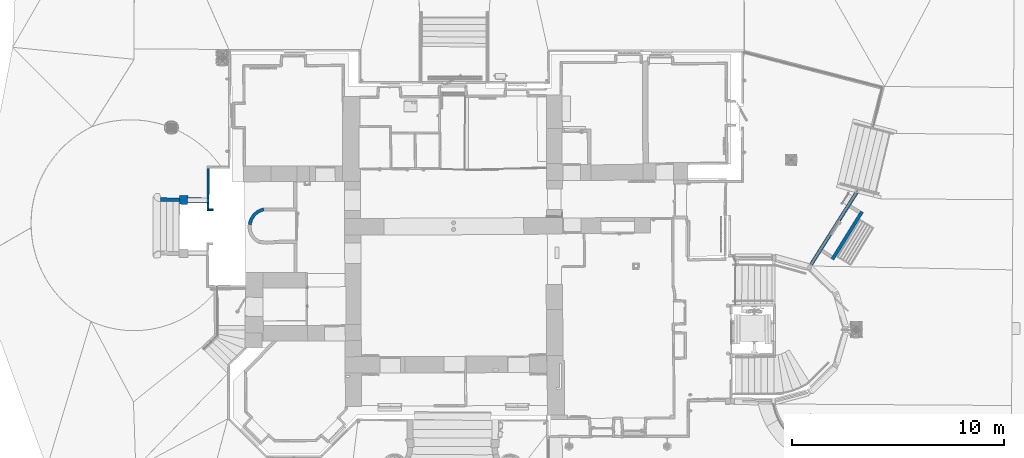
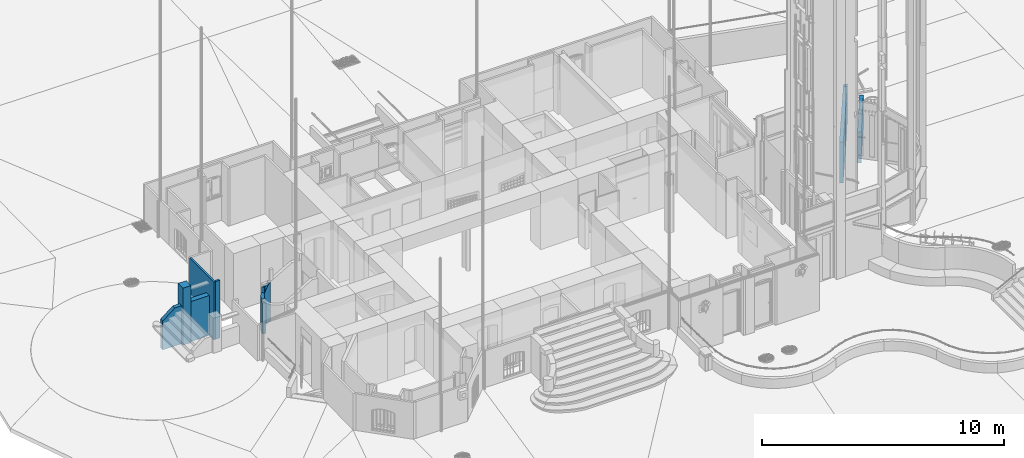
# One storey, part 23 of 133: 8 walls, 1 opening.
"""IFC2X3 building model written with IfcOpenShell, lengths in centimetres."""

from ifc_helpers import new_model, entity, si_unit, converted_unit, direction, frame, origin, origin_with_axes, origin_2d_with_axis, place, context, subcontext, project, spatial, polyline, rectangle, outline, extrude, clip, bounded_halfspace, shape, material, layer, layer_set, layer_usage, type_object, element, save


model = new_model("IFC2X3")

# Units and contexts
model_context = context("Model", 3, precision=0.0001, world=origin(), true_north=direction((0.225632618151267, 0.974212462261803, 0.0)))
body_context = subcontext(model_context, "Body", "Model", "MODEL_VIEW")
footprint_context = subcontext(model_context, "FootPrint", "Model", "MODEL_VIEW")
profile_context = subcontext(model_context, "Profile", "Model", "MODEL_VIEW")
ifc_project = project(units=[si_unit("LENGTHUNIT", "METRE", prefix="CENTI"), si_unit("AREAUNIT", "SQUARE_METRE", prefix="CENTI"), si_unit("VOLUMEUNIT", "CUBIC_METRE", prefix="CENTI"), converted_unit("PLANEANGLEUNIT", "DEGREE", entity("IfcRatioMeasure", 0.0174532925), si_unit("PLANEANGLEUNIT", "RADIAN"), dimensions=[0, 0, 0, 0, 0, 0, 0])], contexts=[model_context])

# Site, building, storey
site_placement = place(None, origin_with_axes())
site = spatial("IfcSite", under=ifc_project, at=site_placement, Name="Default Site", CompositionType="ELEMENT")
building_placement = place(site_placement, origin_with_axes())
building = spatial("IfcBuilding", under=site, at=building_placement, Name="Default Building", CompositionType="ELEMENT")
storey_placement = place(building_placement, frame((0.0, 0.0, -291.400371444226), z_axis=(0.0, 0.0, 1.0), x_axis=(1.0, 0.0, 0.0)))
storey = spatial("IfcBuildingStorey", under=building, at=storey_placement, Name="Rez-de-Jardin", CompositionType="ELEMENT", Elevation=-291.400371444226)

# Walls
ifc_material = material(Name="<aucun>")
ifc_layer_1 = layer(ifc_material, 9.0)
ifc_layer_set_1 = layer_set([ifc_layer_1], Name="default")
ifc_layer_usage_1 = layer_usage(ifc_layer_set_1, "AXIS2", "POSITIVE", -4.5)
wall_type_1 = type_object("IfcWallType", Name="default 90", PredefinedType="NOTDEFINED", material=ifc_layer_set_1)
wall_1_placement = place(storey_placement, frame((-1367.91565575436, 15.8129942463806, -1.94511073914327e-11), z_axis=(0.0, 0.0, 1.0), x_axis=(0.999999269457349, 0.00120875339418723, 0.0)))
element("IfcWallStandardCase", 1, at=wall_1_placement, inside=storey, type_object=wall_type_1, material=ifc_layer_usage_1, Name="Enveloppe 315782", context=body_context, shape_type="Clipping", body=[
    clip(extrude(outline(polyline([(9.21667987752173, -4.49999999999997), (28.6935205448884, -4.49999999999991), (28.693520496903, 4.49996030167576), (9.26983312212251, 4.50000000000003), (9.21667987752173, -4.49999999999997)])), frame((0.0, 0.0, 8.88178419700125e-14), z_axis=(0.0, 0.0, 1.0), x_axis=(1.0, 0.0, 0.0)), (0.0, 0.0, 1.0), 291.413221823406), bounded_halfspace(frame((28.6935205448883, -4.07503957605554, 187.697835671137), z_axis=(0.0, 0.0, -1.0), x_axis=(3.08449012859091e-14, 1.0, 0.0)), True, frame((28.6935205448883, -4.07503957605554, 187.697835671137), z_axis=(0.0, 0.0, 1.0), x_axis=(1.0, 0.0, 0.0)), polyline([(-0.0328423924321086, 8.57503957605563), (0.0, 0.0), (-1.77635683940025e-13, 8.57503957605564), (-0.0328423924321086, 8.57503957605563)]))),
])
ifc_layer_2 = layer(ifc_material, 15.0)
ifc_layer_set_2 = layer_set([ifc_layer_2], Name="default")
ifc_layer_usage_2 = layer_usage(ifc_layer_set_2, "AXIS2", "POSITIVE", -7.5)
wall_type_2 = type_object("IfcWallType", Name="default 150", PredefinedType="NOTDEFINED", material=ifc_layer_set_2)
wall_2_placement = place(storey_placement, frame((-1164.66146331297, -45.0584233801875, 0.0), z_axis=(0.0, 0.0, 1.0), x_axis=(0.225703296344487, 0.974196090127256, 0.0)))
solid_1 = clip(clip(clip(clip(clip(clip(clip(clip(extrude(outline(polyline([(-10.1881886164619, 6.33521813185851), (-8.83681582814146, -8.35182439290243), (-3.07904812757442e-09, -7.49999999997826), (1.05358273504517, -7.50737313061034), (19.0367628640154, -9.9467827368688), (35.9135955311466, -16.6189642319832), (50.7032605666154, -27.1361546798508), (62.5462363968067, -40.8871332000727), (68.4404910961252, -51.4282490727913), (82.077770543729, -45.1812810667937), (75.0090415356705, -32.5397690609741), (60.8062642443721, -16.0488052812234), (43.0696478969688, -3.43598602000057), (22.8299801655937, 4.56567751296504), (1.26351697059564, 7.49115771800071), (-8.88178419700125e-14, 7.50000000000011), (-10.1881886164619, 6.33521813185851)])), frame((0.0, 0.0, -1.93622895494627e-11), z_axis=(0.0, 0.0, 1.0), x_axis=(1.0, 0.0, 0.0)), (0.0, 0.0, 1.0), 199.095095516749), bounded_halfspace(frame((80.0358551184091, -46.1166421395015, 187.697835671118), z_axis=(0.0, 0.0, -1.0), x_axis=(-0.230247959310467, 0.973131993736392, 0.0)), True, frame((80.0358551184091, -46.1166421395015, 187.697835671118), z_axis=(0.0, 0.0, 1.0), x_axis=(1.0, 0.0, 0.0)), polyline([(-19.2264239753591, 27.5892564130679), (-11.5953640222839, -5.3116069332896), (0.0, -1.77635683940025e-13), (-1.88142402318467, 7.95174869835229), (-5.02681358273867, 13.5768730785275), (-18.110457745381, 28.7684020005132), (-19.2264239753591, 27.5892564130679)]))), bounded_halfspace(frame((82.077770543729, -45.1812810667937, 199.09509551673), z_axis=(0.237617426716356, -0.518724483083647, -0.821256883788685), x_axis=(-0.901049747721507, 0.198102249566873, -0.385830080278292)), True, frame((82.077770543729, -45.1812810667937, 199.09509551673), z_axis=(0.0, 0.0, 1.0), x_axis=(1.0, 0.0, 0.0)), polyline([(-2.38741848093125, 0.52489107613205), (-2.04191542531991, -0.935361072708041), (0.0, 0.0), (-2.38741848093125, 0.52489107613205)]))), bounded_halfspace(frame((22.8299801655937, 4.56567751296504, 170.181160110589), z_axis=(-0.00927857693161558, 0.00242520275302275, -0.999954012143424), x_axis=(-0.252881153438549, -0.967497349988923, 0.0)), True, frame((22.8299801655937, 4.56567751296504, 170.181160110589), z_axis=(0.0, 0.0, 1.0), x_axis=(1.0, 0.0, 0.0)), polyline([(-3.79321730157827, -14.5124602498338), (20.2396677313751, -8.00166353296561), (-4.44089209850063e-14, 0.0), (-3.79321730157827, -14.5124602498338)]))), bounded_halfspace(frame((-0.543019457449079, 7.43791838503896, 170.400371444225), z_axis=(0.0, 0.0, -1.0), x_axis=(0.0904840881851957, -0.995897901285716, 0.0)), True, frame((-0.543019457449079, 7.43791838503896, 170.400371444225), z_axis=(0.0, 0.0, 1.0), x_axis=(1.0, 0.0, 0.0)), polyline([(-0.339647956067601, -15.0230030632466), (0.543019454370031, -14.9379183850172), (0.543019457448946, 0.0620816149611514), (-4.44089209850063e-14, 0.0), (-0.339647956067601, -15.0230030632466)]))), bounded_halfspace(frame((-8.83681582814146, -8.35182439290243, 155.7), z_axis=(0.0, 0.0, -1.0), x_axis=(0.995386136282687, 0.095950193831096, 0.0)), True, frame((-8.83681582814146, -8.35182439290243, 155.7), z_axis=(0.0, 0.0, 1.0), x_axis=(1.0, 0.0, 0.0)), polyline([(-1.35137278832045, 14.6870425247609), (-4.44089209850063e-14, 0.0), (7.95414841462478, 0.766739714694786), (8.29710668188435, 15.7533083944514), (6.16405817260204, 15.5462568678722), (-1.35137278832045, 14.6870425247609)]))), bounded_halfspace(frame((-0.543019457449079, 7.43791838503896, 170.400371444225), z_axis=(0.0, 0.0, -1.0), x_axis=(-0.993528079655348, -0.113586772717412, 0.0)), True, frame((-0.543019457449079, 7.43791838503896, 170.400371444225), z_axis=(0.0, 0.0, 1.0), x_axis=(1.0, 0.0, 0.0)), polyline([(-2.12973819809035, -0.243485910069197), (0.0033103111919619, -0.0364343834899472), (-4.44089209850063e-14, 0.0), (-2.12973819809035, -0.243485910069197)]))), bounded_halfspace(frame((82.077770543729, -45.1812810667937, 199.095095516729), z_axis=(0.278951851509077, -0.416481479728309, -0.865291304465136), x_axis=(0.202374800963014, -0.85532742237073, 0.476927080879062)), True, frame((82.077770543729, -45.1812810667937, 199.095095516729), z_axis=(0.0, 0.0, 1.0), x_axis=(1.0, 0.0, 0.0)), polyline([(-3.92333944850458, 7.01638762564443), (-2.38741848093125, 0.52489107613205), (0.0, 0.0), (-3.92333944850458, 7.01638762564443)]))), bounded_halfspace(frame((1.26351697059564, 7.49115771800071, 170.388370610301), z_axis=(-0.00958934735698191, 0.000134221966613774, -0.999954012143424), x_axis=(-0.0139956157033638, -0.999902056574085, 0.0)), True, frame((1.26351697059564, 7.49115771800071, 170.388370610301), z_axis=(0.0, 0.0, 1.0), x_axis=(1.0, 0.0, 0.0)), polyline([(-0.209934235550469, -14.998530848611), (21.566463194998, -2.92548020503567), (0.0, -1.77635683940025e-13), (-0.209934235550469, -14.998530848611)])))
solid_2 = clip(clip(clip(clip(clip(clip(clip(clip(solid_1, bounded_halfspace(frame((-3.07904812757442e-09, -7.49999999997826, 170.400371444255), z_axis=(-0.00949753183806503, -2.86229373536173e-17, -0.999954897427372), x_axis=(-2.05266054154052e-10, -1.0, 1.94955163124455e-12)), True, frame((-3.07904812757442e-09, -7.49999999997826, 170.400371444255), z_axis=(0.0, 0.0, 1.0), x_axis=(1.0, 0.0, 0.0)), polyline([(0.0, 0.0), (1.26351697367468, 14.9911577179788), (3.07891490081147e-09, 14.9999999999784), (0.0, 0.0)]))), bounded_halfspace(frame((-3.07904812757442e-09, -7.49999999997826, 170.400371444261), z_axis=(-0.011388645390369, 0.00015940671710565, -0.999935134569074), x_axis=(0.0139956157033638, 0.999902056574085, 0.0)), True, frame((-3.07904812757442e-09, -7.49999999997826, 170.400371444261), z_axis=(0.0, 0.0, 1.0), x_axis=(1.0, 0.0, 0.0)), polyline([(0.0, 0.0), (1.05358273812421, -0.00737313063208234), (1.26351697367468, 14.9911577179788), (0.0, 0.0)]))), bounded_halfspace(frame((1.05358273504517, -7.50737313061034, 170.388370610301), z_axis=(-0.01112717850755, 0.00290838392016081, -0.999933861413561), x_axis=(0.252881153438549, 0.967497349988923, 0.0)), True, frame((1.05358273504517, -7.50737313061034, 170.388370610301), z_axis=(0.0, 0.0, 1.0), x_axis=(1.0, 0.0, 0.0)), polyline([(0.0, 0.0), (17.9831801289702, -2.43940960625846), (21.7763974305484, 12.0730506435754), (0.0, 0.0)]))), bounded_halfspace(frame((19.0367628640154, -9.9467827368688, 170.181160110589), z_axis=(-0.0101078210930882, 0.00548677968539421, -0.999933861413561), x_axis=(0.477070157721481, 0.878865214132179, 0.0)), True, frame((19.0367628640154, -9.9467827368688, 170.181160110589), z_axis=(0.0, 0.0, 1.0), x_axis=(1.0, 0.0, 0.0)), polyline([(-4.44089209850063e-14, 0.0), (16.8768326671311, -6.67218149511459), (24.0328850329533, 6.51079671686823), (-4.44089209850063e-14, 0.0)]))), bounded_halfspace(frame((65.5317711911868, -38.8874753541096, 190.731680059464), z_axis=(0.3186778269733, -0.475793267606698, -0.819795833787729), x_axis=(0.830853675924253, 0.556490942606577, 3.08967385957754e-14)), True, frame((65.5317711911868, -38.8874753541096, 190.731680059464), z_axis=(0.0, 0.0, 1.0), x_axis=(1.0, 0.0, 0.0)), polyline([(-14.8285106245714, 11.7513206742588), (-2.98553479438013, -1.99965784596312), (-4.44089209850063e-14, 0.0), (-2.06760112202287, 8.9143398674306), (-14.8285106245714, 11.7513206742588)]))), bounded_halfspace(frame((68.4404910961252, -51.4282490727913, 199.095095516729), z_axis=(0.237617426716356, -0.518724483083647, -0.821256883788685), x_axis=(-0.186780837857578, 0.805294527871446, -0.562684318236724)), True, frame((68.4404910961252, -51.4282490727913, 199.095095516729), z_axis=(0.0, 0.0, 1.0), x_axis=(1.0, 0.0, 0.0)), polyline([(-5.89425469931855, 10.5411158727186), (0.0, -1.77635683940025e-13), (-2.25957050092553, 9.74200448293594), (-5.89425469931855, 10.5411158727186)]))), bounded_halfspace(frame((63.4641700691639, -29.973135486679, 184.754238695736), z_axis=(0.372029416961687, -0.339000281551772, -0.864102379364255), x_axis=(-0.564938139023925, 0.655954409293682, -0.500568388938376)), True, frame((63.4641700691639, -29.973135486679, 184.754238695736), z_axis=(0.0, 0.0, 1.0), x_axis=(1.0, 0.0, 0.0)), polyline([(-12.7609095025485, 2.83698080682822), (0.0, 0.0), (-2.65473892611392, 11.4457497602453), (-1.53877269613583, 12.6248953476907), (-2.65790582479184, 13.9243302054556), (-12.7609095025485, 2.83698080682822)]))), bounded_halfspace(frame((35.9135955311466, -16.6189642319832, 169.973949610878), z_axis=(-0.0095337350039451, 0.0062551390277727, -0.999934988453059), x_axis=(-0.832957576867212, -0.553318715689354, 0.00448040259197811)), True, frame((35.9135955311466, -16.6189642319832, 169.973949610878), z_axis=(0.0, 0.0, 1.0), x_axis=(1.0, 0.0, 0.0)), polyline([(0.0, -1.77635683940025e-13), (5.11036993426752, -3.63407377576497), (13.2847017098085, 8.82478807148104), (0.0, -1.77635683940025e-13)])))
element("IfcWallStandardCase", 2, at=wall_2_placement, inside=storey, type_object=wall_type_2, material=ifc_layer_usage_2, Name="Enveloppe courbe 90232", context=body_context, shape_type="Clipping", body=[
    clip(clip(clip(clip(solid_2, bounded_halfspace(frame((43.0696478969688, -3.43598602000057, 169.973949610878), z_axis=(-0.00841190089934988, 0.0045661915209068, -0.999954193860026), x_axis=(-0.477070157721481, -0.878865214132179, 0.0)), True, frame((43.0696478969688, -3.43598602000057, 169.973949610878), z_axis=(0.0, 0.0, 1.0), x_axis=(1.0, 0.0, 0.0)), polyline([(-7.1560523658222, -13.1829782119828), (6.12864934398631, -4.35819014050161), (0.0, 0.0), (-7.1560523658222, -13.1829782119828)]))), bounded_halfspace(frame((60.8062642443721, -16.0488052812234, 178.147184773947), z_axis=(0.423579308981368, -0.385973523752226, -0.819515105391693), x_axis=(0.673533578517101, 0.739156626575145, 7.4014868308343e-15)), True, frame((60.8062642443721, -16.0488052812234, 178.147184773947), z_axis=(0.0, 0.0, 1.0), x_axis=(1.0, 0.0, 0.0)), polyline([(-19.782298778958, -4.20423272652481), (-10.1030036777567, -11.0873493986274), (0.0, 0.0), (-19.782298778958, -4.20423272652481)]))), bounded_halfspace(frame((60.8062642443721, -16.0488052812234, 178.147184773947), z_axis=(0.419074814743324, -0.274957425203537, -0.865317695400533), x_axis=(0.90577885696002, 0.192500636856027, 0.377502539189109)), True, frame((60.8062642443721, -16.0488052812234, 178.147184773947), z_axis=(0.0, 0.0, 1.0), x_axis=(1.0, 0.0, 0.0)), polyline([(-19.782298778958, -4.20423272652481), (0.0, 0.0), (-11.607967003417, 8.25462912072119), (-19.782298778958, -4.20423272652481)]))), bounded_halfspace(frame((66.1809205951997, -41.6862445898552, 192.288054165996), z_axis=(0.278951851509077, -0.416481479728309, -0.865291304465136), x_axis=(0.901049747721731, -0.198102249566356, 0.385830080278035)), True, frame((66.1809205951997, -41.6862445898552, 192.288054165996), z_axis=(0.0, 0.0, 1.0), x_axis=(1.0, 0.0, 0.0)), polyline([(-3.63468419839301, 0.799111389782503), (0.0, -1.77635683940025e-13), (-0.649149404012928, 2.79876923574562), (-3.63468419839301, 0.799111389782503)]))),
])
ifc_layer_3 = layer(ifc_material, 15.5)
ifc_layer_set_3 = layer_set([ifc_layer_3], Name="default")
ifc_layer_usage_3 = layer_usage(ifc_layer_set_3, "AXIS2", "POSITIVE", -7.75)
wall_type_3 = type_object("IfcWallType", Name="default 155", PredefinedType="NOTDEFINED", material=ifc_layer_set_3)
wall_3_placement = place(storey_placement, frame((1576.8629842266, -217.820565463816, 8.88178419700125e-14), z_axis=(0.0, 0.0, 1.0), x_axis=(0.528959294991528, 0.848647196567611, 0.0)))
element("IfcWallStandardCase", 3, at=wall_3_placement, inside=storey, type_object=wall_type_3, material=ifc_layer_usage_3, Name="Enveloppe 295347", context=body_context, shape_type="SweptSolid", body=[
    extrude(outline(polyline([(0.358450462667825, 7.75000000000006), (-2.62455723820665e-05, -7.74999999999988), (264.268948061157, -7.75000000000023), (264.121120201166, 7.75000000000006), (0.358450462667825, 7.75000000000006)])), origin_with_axes(), (0.0, 0.0, 1.0), 156.400371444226),
])
ifc_layer_usage_4 = layer_usage(ifc_layer_set_1, "AXIS2", "POSITIVE", -4.5)
wall_type_4 = type_object("IfcWallType", Name="default 90", PredefinedType="NOTDEFINED", material=ifc_layer_set_1)
wall_4_placement = place(storey_placement, frame((-1363.15143168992, 20.3000845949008, -1.94511073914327e-11), z_axis=(0.0, 0.0, 1.0), x_axis=(0.00469707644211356, 0.999988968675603, 0.0)))
element("IfcWallStandardCase", 4, at=wall_4_placement, inside=storey, type_object=wall_type_4, material=ifc_layer_usage_4, Name="Enveloppe 310460", context=body_context, shape_type="Clipping", body=[
    clip(clip(extrude(outline(polyline([(39.8190177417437, 4.50000000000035), (-9.00806155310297, 4.50000000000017), (-8.95490830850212, -4.49999999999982), (39.8190177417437, -4.49999999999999), (191.357586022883, -4.49999999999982), (191.400506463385, 4.50000000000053), (39.8190177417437, 4.50000000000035)])), frame((0.0, 0.0, 4.44089209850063e-14), z_axis=(0.0, 0.0, 1.0), x_axis=(1.0, 0.0, 0.0)), (0.0, 0.0, 1.0), 291.413221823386), bounded_halfspace(frame((27.8104825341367, 4.50000000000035, 201.400371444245), z_axis=(0.0, 0.0, 1.0), x_axis=(1.0, 1.01663469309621e-14, 0.0)), True, frame((27.8104825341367, 4.50000000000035, 201.400371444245), z_axis=(0.0, 0.0, 1.0), x_axis=(1.0, 0.0, 0.0)), polyline([(0.0, 1.77635683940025e-13), (12.008535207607, 0.0), (12.0085352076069, -9.00000000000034), (0.0170274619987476, -8.99999999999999), (0.0, 1.77635683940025e-13)]))), bounded_halfspace(frame((39.8190177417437, 4.50000000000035, 201.400371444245), z_axis=(0.0, 0.0, 1.0), x_axis=(1.0, 5.58927903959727e-15, 0.0)), True, frame((39.8190177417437, 4.50000000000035, 201.400371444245), z_axis=(0.0, 0.0, 1.0), x_axis=(1.0, 0.0, 0.0)), polyline([(-2.22044604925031e-14, -9.00000000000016), (1.11022302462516e-14, 0.0), (11.9915077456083, 3.5527136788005e-13), (12.008535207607, -9.00000000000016), (-2.22044604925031e-14, -9.00000000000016)]))),
])
ifc_layer_4 = layer(ifc_material, 18.0)
ifc_layer_set_4 = layer_set([ifc_layer_4], Name="default")
ifc_layer_usage_5 = layer_usage(ifc_layer_set_4, "AXIS2", "POSITIVE", -9.0)
wall_type_5 = type_object("IfcWallType", Name="default 180", PredefinedType="NOTDEFINED", material=ifc_layer_set_4)
wall_5_placement = place(storey_placement, frame((-1496.92520894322, 62.7081396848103, -1.94511073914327e-11), z_axis=(0.0, 0.0, 1.0), x_axis=(-0.999965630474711, 0.00829083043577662, 0.0)))
element("IfcWallStandardCase", 5, at=wall_5_placement, inside=storey, type_object=wall_type_5, material=ifc_layer_usage_5, Name="Enveloppe 311187", context=body_context, shape_type="Clipping", body=[
    clip(extrude(rectangle(XDim=18.0, YDim=89.2494004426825, at=origin_2d_with_axis()), frame((44.7500016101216, 1.99840144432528e-13, 4.44089209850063e-14), z_axis=(0.0, 0.0, 1.0), x_axis=(5.20417042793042e-18, -1.0, 0.0)), (0.0, 0.0, 1.0), 191.400371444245), bounded_halfspace(frame((32.0036235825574, -8.99999999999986, 191.400371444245), z_axis=(-0.627930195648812, -2.76341449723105e-15, -0.778269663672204), x_axis=(-0.778269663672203, -3.12423698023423e-15, 0.627930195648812)), True, frame((32.0036235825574, -8.99999999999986, 191.400371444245), z_axis=(0.0, 0.0, 1.0), x_axis=(1.0, 0.0, 0.0)), polyline([(0.0, 0.0), (57.3710782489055, 2.55351295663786e-13), (57.3710782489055, 18.0000000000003), (0.0, 18.0), (0.0, 0.0)]))),
])
ifc_layer_5 = layer(ifc_material, 41.0)
ifc_layer_set_5 = layer_set([ifc_layer_5], Name="default")
ifc_layer_usage_6 = layer_usage(ifc_layer_set_5, "AXIS2", "POSITIVE", -20.5)
wall_type_6 = type_object("IfcWallType", Name="default 410", PredefinedType="NOTDEFINED", material=ifc_layer_set_5)
wall_6_placement = place(storey_placement, frame((-1458.58962138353, 61.6202307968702, -1.94511073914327e-11), z_axis=(0.0, 0.0, 1.0), x_axis=(-0.999883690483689, 0.0152514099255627, 0.0)))
element("IfcWallStandardCase", 6, at=wall_6_placement, inside=storey, type_object=wall_type_6, material=ifc_layer_usage_6, Name="Enveloppe 310578", context=body_context, shape_type="Clipping", body=[
    clip(extrude(outline(polyline([(38.4103700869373, 20.5), (0.0, 20.5), (0.0, -20.5), (38.4103700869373, -20.5), (38.4103700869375, -9.5028925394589), (38.5356525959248, -9.50098158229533), (38.4103700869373, 8.49754357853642), (38.4103700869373, 20.5)])), frame((0.0, 0.0, 8.88178419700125e-14), z_axis=(0.0, 0.0, 1.0), x_axis=(1.0, 0.0, 0.0)), (0.0, 0.0, 1.0), 287.400371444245), bounded_halfspace(frame((38.5356684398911, -9.50202031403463, 191.400371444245), z_axis=(0.0, 0.0, -1.0), x_axis=(-0.00696101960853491, 0.999975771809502, 0.0)), True, frame((38.5356684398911, -9.50202031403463, 191.400371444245), z_axis=(0.0, 0.0, 1.0), x_axis=(1.0, 0.0, 0.0)), polyline([(-0.125298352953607, -0.00087222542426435), (1.77635683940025e-13, -5.55111512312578e-15), (-0.125298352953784, 17.9995638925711), (-0.125298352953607, -0.00087222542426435)]))),
])
ifc_layer_6 = layer(ifc_material, 24.0)
ifc_layer_set_6 = layer_set([ifc_layer_6], Name="default")
ifc_layer_usage_7 = layer_usage(ifc_layer_set_6, "AXIS2", "POSITIVE", -12.0)
wall_type_7 = type_object("IfcWallType", Name="default 240", PredefinedType="NOTDEFINED", material=ifc_layer_set_6)
wall_7_placement = place(storey_placement, frame((-1367.44168587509, 60.1312226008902, -1.94511073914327e-11), z_axis=(0.0, 0.0, 1.0), x_axis=(-0.999996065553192, 0.00280515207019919, 0.0)))
element("IfcWallStandardCase", 7, at=wall_7_placement, inside=storey, type_object=wall_type_7, material=ifc_layer_usage_7, Name="Enveloppe 310519", context=body_context, shape_type="SweptSolid", body=[
    extrude(outline(polyline([(91.3164753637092, 11.9999999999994), (-8.95460954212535, 12.0000000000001), (-9.00001610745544, -11.9999999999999), (91.0177356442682, -12.0000000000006), (91.3164753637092, 11.9999999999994)])), frame((0.0, 0.0, 8.88178419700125e-14), z_axis=(0.0, 0.0, 1.0), x_axis=(1.0, 0.0, 0.0)), (0.0, 0.0, 1.0), 201.400371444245),
])

# Wall, opening
ifc_layer_7 = layer(ifc_material, 16.5)
ifc_layer_set_7 = layer_set([ifc_layer_7], Name="default")
ifc_layer_usage_8 = layer_usage(ifc_layer_set_7, "AXIS2", "POSITIVE", -8.25)
wall_type_8 = type_object("IfcWallType", Name="default 165", PredefinedType="NOTDEFINED", material=ifc_layer_set_7)
wall_8_placement = place(storey_placement, frame((1474.00113276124, -246.521263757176, -50.0), z_axis=(0.0, 0.0, 1.0), x_axis=(0.534325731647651, 0.845278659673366, 0.0)))
wall_8 = element("IfcWallStandardCase", 8, at=wall_8_placement, inside=storey, type_object=wall_type_8, material=ifc_layer_usage_8, Name="Enveloppe 135031", context=body_context, shape_type="Clipping", body=[
    clip(clip(clip(clip(clip(clip(clip(clip(extrude(outline(polyline([(334.550361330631, 8.24999999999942), (326.668421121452, 8.24999999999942), (95.4668941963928, 8.2499999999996), (88.1043457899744, 8.2499999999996), (0.0037710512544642, 8.24999999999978), (4.99100294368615, -8.25000000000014), (88.1043457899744, -8.24999999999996), (95.4668941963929, -8.25000000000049), (326.668421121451, -8.25000000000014), (334.550361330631, -8.25000000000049), (423.868255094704, -8.25000000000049), (418.81165524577, 8.24999999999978), (334.550361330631, 8.24999999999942)])), frame((0.0, 0.0, -8.88178419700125e-14), z_axis=(0.0, 0.0, 1.0), x_axis=(1.0, 0.0, 0.0)), (0.0, 0.0, 1.0), 206.400371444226), bounded_halfspace(frame((401.767814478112, 8.24999999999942, 124.997195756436), z_axis=(0.0, 0.0, 1.0), x_axis=(1.0, 5.40123501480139e-14, 0.0)), True, frame((401.767814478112, 8.24999999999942, 124.997195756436), z_axis=(0.0, 0.0, 1.0), x_axis=(1.0, 0.0, 0.0)), polyline([(0.0, 0.0), (2.47031294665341, 0.0), (2.47031294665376, -8.21249759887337), (0.0, 0.0)]))), bounded_halfspace(frame((423.868255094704, -8.25000000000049, 124.997195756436), z_axis=(0.0, 0.0, 1.0), x_axis=(-1.0, 1.57179824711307e-12, 0.0)), True, frame((423.868255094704, -8.25000000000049, 124.997195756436), z_axis=(0.0, 0.0, 1.0), x_axis=(1.0, 0.0, 0.0)), polyline([(-4.00178562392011, 13.0125148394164), (-3.9890298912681, 13.0164527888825), (0.0, -1.77635683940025e-13), (-0.0876311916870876, 1.77635683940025e-13), (-4.00178562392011, 13.0125148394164)]))), bounded_halfspace(frame((419.124612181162, 7.22880204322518, 124.997195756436), z_axis=(0.0, 0.0, 1.0), x_axis=(0.293009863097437, -0.956109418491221, 0.0)), True, frame((419.124612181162, 7.22880204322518, 124.997195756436), z_axis=(0.0, 0.0, 1.0), x_axis=(1.0, 0.0, 0.0)), polyline([(-1.77635683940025e-13, 0.0), (0.754613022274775, -2.46234925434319), (0.741857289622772, -2.46628720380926), (-1.77635683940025e-13, 0.0)]))), bounded_halfspace(frame((407.332601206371, -8.25000000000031, 124.997195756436), z_axis=(0.0, 0.0, 1.0), x_axis=(-1.0, -4.77395900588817e-14, 0.0)), True, frame((407.332601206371, -8.25000000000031, 124.997195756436), z_axis=(0.0, 0.0, 1.0), x_axis=(1.0, 0.0, 0.0)), polyline([(-3.09447378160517, 8.28750240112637), (-3.09447378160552, 16.4999999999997), (11.4790540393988, 16.5000000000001), (16.4480226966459, 0.0), (-0.601599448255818, 0.0), (-3.09447378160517, 8.28750240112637)]))), bounded_halfspace(frame((404.238127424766, 0.037502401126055, 166.400371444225), z_axis=(0.0, 0.0, -1.0), x_axis=(-2.91433543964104e-14, -1.0, 0.0)), True, frame((404.238127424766, 0.037502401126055, 166.400371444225), z_axis=(0.0, 0.0, 1.0), x_axis=(1.0, 0.0, 0.0)), polyline([(-3.5527136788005e-13, -8.28750240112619), (2.49287433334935, -8.28750240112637), (0.0, 0.0), (-3.5527136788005e-13, -8.28750240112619)]))), bounded_halfspace(frame((419.879225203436, 4.76645278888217, 166.400371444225), z_axis=(0.0, 0.0, -1.0), x_axis=(-0.955502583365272, -0.294982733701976, 0.0)), True, frame((419.879225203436, 4.76645278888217, 166.400371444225), z_axis=(0.0, 0.0, 1.0), x_axis=(1.0, 0.0, 0.0)), polyline([(-0.0127557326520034, -0.00393794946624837), (3.90139869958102, -13.0164527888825), (3.9890298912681, -13.0164527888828), (0.0, -1.77635683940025e-13), (-0.0127557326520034, -0.00393794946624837)]))), bounded_halfspace(frame((419.866469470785, 4.7625148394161, 166.400371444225), z_axis=(0.0, 0.0, -1.0), x_axis=(0.955502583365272, 0.294982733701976, 0.0)), True, frame((419.866469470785, 4.7625148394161, 166.400371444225), z_axis=(0.0, 0.0, 1.0), x_axis=(1.0, 0.0, 0.0)), polyline([(-0.741857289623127, 2.46628720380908), (-1.77635683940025e-13, -1.77635683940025e-13), (0.0127557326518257, 0.0039379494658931), (-0.741857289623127, 2.46628720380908)]))), bounded_halfspace(frame((423.780623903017, -8.25000000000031, 166.400371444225), z_axis=(0.0, 0.0, -1.0), x_axis=(-0.288049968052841, 0.957615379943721, 0.0)), True, frame((423.780623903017, -8.25000000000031, 166.400371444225), z_axis=(0.0, 0.0, 1.0), x_axis=(1.0, 0.0, 0.0)), polyline([(-19.5424964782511, 8.28750240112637), (-17.0496221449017, 0.0), (0.0, 0.0), (-4.96896865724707, 16.5000000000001), (-19.5424964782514, 16.4999999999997), (-19.5424964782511, 8.28750240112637)]))),
])
opening_placement = place(wall_8_placement, frame((172.480711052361, -2.27373675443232e-13, 50.1), z_axis=(0.0, 0.0, 1.0), x_axis=(-1.0, 7.7715611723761e-16, 0.0)))
cartesian_point_1 = entity("IfcCartesianPoint", [8.88178419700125e-14, -1.77635683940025e-13, 135.306799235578])
cartesian_point_2 = entity("IfcCartesianPoint", [-79.9999999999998, -8.25000000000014])
element("IfcOpeningElement", 9, at=opening_placement, cuts=wall_8, Name="4294966383_11", ObjectType="Opening", shapes=[
    shape(body_context, "Body", "SweptSolid", [extrude(outline(polyline([(-8.88178419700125e-14, 135.306799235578), (-8.88178419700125e-14, 0.0), (79.9999999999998, 0.0), (79.9999999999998, 135.306799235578), (-8.88178419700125e-14, 135.306799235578)])), frame((0.0, -18.25, 0.0), z_axis=(0.0, 1.0, 0.0), x_axis=(-1.0, 0.0, 0.0)), (0.0, 0.0, 1.0), 36.5)]),
    shape(profile_context, "Profile", "GeometricCurveSet", [entity("IfcGeometricCurveSet", [entity("IfcPolyline", [cartesian_point_1, entity("IfcCartesianPoint", [8.88178419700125e-14, -1.77635683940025e-13, 0.0]), entity("IfcCartesianPoint", [-80.0, 0.0, 0.0]), entity("IfcCartesianPoint", [-80.0, 0.0, 135.306799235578]), cartesian_point_1])])]),
    shape(footprint_context, "FootPrint", "GeometricCurveSet", [entity("IfcGeometricCurveSet", [entity("IfcPolyline", [cartesian_point_2, entity("IfcCartesianPoint", [8.88178419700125e-14, -8.25000000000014]), entity("IfcCartesianPoint", [1.77635683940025e-13, 8.24999999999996]), entity("IfcCartesianPoint", [-79.9999999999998, 8.24999999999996]), cartesian_point_2])])]),
])

save(model, "model.ifc")
